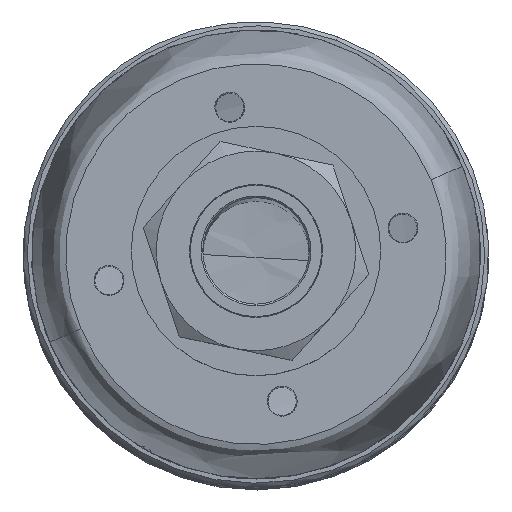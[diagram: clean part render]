
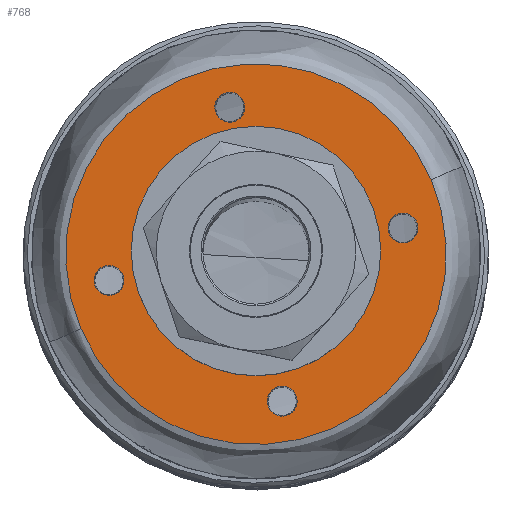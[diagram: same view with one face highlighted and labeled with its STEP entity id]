
A CAD part, top view. The second image highlights one B-rep face of the part: STEP entity #768.
In plain terms, the highlighted planar face has unit normal (0, 0, 1).
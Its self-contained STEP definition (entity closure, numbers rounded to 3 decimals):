
#53 = VERTEX_POINT ( 'NONE', #2762 ) ;
#68 = EDGE_CURVE ( 'NONE', #69, #53, #2835, .T. ) ;
#69 = VERTEX_POINT ( 'NONE', #2831 ) ;
#80 = VERTEX_POINT ( 'NONE', #2874 ) ;
#82 = EDGE_CURVE ( 'NONE', #83, #80, #2873, .T. ) ;
#83 = VERTEX_POINT ( 'NONE', #2868 ) ;
#478 = ORIENTED_EDGE ( 'NONE', *, *, #82, .T. ) ;
#518 = ORIENTED_EDGE ( 'NONE', *, *, #710, .T. ) ;
#695 = EDGE_CURVE ( 'NONE', #696, #707, #4847, .T. ) ;
#696 = VERTEX_POINT ( 'NONE', #4842 ) ;
#698 = EDGE_CURVE ( 'NONE', #80, #83, #4841, .T. ) ;
#704 = EDGE_LOOP ( 'NONE', ( #478, #743 ) ) ;
#707 = VERTEX_POINT ( 'NONE', #4919 ) ;
#710 = EDGE_CURVE ( 'NONE', #750, #741, #4953, .T. ) ;
#722 = EDGE_CURVE ( 'NONE', #2151, #2154, #4988, .T. ) ;
#731 = EDGE_CURVE ( 'NONE', #2136, #2139, #5022, .T. ) ;
#732 = ORIENTED_EDGE ( 'NONE', *, *, #2138, .T. ) ;
#735 = ORIENTED_EDGE ( 'NONE', *, *, #722, .T. ) ;
#737 = ORIENTED_EDGE ( 'NONE', *, *, #2153, .T. ) ;
#739 = EDGE_CURVE ( 'NONE', #53, #69, #5017, .T. ) ;
#740 = EDGE_CURVE ( 'NONE', #741, #750, #5012, .T. ) ;
#741 = VERTEX_POINT ( 'NONE', #5007 ) ;
#742 = EDGE_LOOP ( 'NONE', ( #746, #761 ) ) ;
#743 = ORIENTED_EDGE ( 'NONE', *, *, #698, .T. ) ;
#745 = ORIENTED_EDGE ( 'NONE', *, *, #740, .T. ) ;
#746 = ORIENTED_EDGE ( 'NONE', *, *, #68, .T. ) ;
#750 = VERTEX_POINT ( 'NONE', #4996 ) ;
#751 = ORIENTED_EDGE ( 'NONE', *, *, #695, .T. ) ;
#757 = ORIENTED_EDGE ( 'NONE', *, *, #772, .T. ) ;
#758 = EDGE_LOOP ( 'NONE', ( #745, #518 ) ) ;
#761 = ORIENTED_EDGE ( 'NONE', *, *, #739, .T. ) ;
#762 = EDGE_LOOP ( 'NONE', ( #751, #757 ) ) ;
#768 = ADVANCED_FACE ( 'NONE', ( #5067, #5066, #5065, #5064, #5063, #5062 ), #5101, .T. ) ;
#772 = EDGE_CURVE ( 'NONE', #707, #696, #5091, .T. ) ;
#809 = ORIENTED_EDGE ( 'NONE', *, *, #731, .T. ) ;
#811 = EDGE_LOOP ( 'NONE', ( #737, #735 ) ) ;
#812 = EDGE_LOOP ( 'NONE', ( #732, #809 ) ) ;
#2136 = VERTEX_POINT ( 'NONE', #8761 ) ;
#2138 = EDGE_CURVE ( 'NONE', #2139, #2136, #8760, .T. ) ;
#2139 = VERTEX_POINT ( 'NONE', #8755 ) ;
#2151 = VERTEX_POINT ( 'NONE', #8806 ) ;
#2153 = EDGE_CURVE ( 'NONE', #2154, #2151, #8805, .T. ) ;
#2154 = VERTEX_POINT ( 'NONE', #8800 ) ;
#2762 = CARTESIAN_POINT ( 'NONE',  ( 3.784, 11.147, 0. ) ) ;
#2792 = CARTESIAN_POINT ( 'NONE',  ( 24.834, 20.124, 0. ) ) ;
#2831 = CARTESIAN_POINT ( 'NONE',  ( 45.885, 29.1, 0. ) ) ;
#2832 = DIRECTION ( 'NONE',  ( 0.92, 0.392, 0. ) ) ;
#2833 = DIRECTION ( 'NONE',  ( 0., 0., 1. ) ) ;
#2834 = AXIS2_PLACEMENT_3D ( 'NONE', #2792, #2833, #2832 ) ;
#2835 = CIRCLE ( 'NONE', #2834, 22.885 ) ;
#2868 = CARTESIAN_POINT ( 'NONE',  ( 32.408, 23.353, 0. ) ) ;
#2869 = DIRECTION ( 'NONE',  ( 0.92, 0.392, 0. ) ) ;
#2870 = DIRECTION ( 'NONE',  ( 0., 0., -1. ) ) ;
#2871 = CARTESIAN_POINT ( 'NONE',  ( 24.834, 20.124, 0. ) ) ;
#2872 = AXIS2_PLACEMENT_3D ( 'NONE', #2871, #2870, #2869 ) ;
#2873 = CIRCLE ( 'NONE', #2872, 8.234 ) ;
#2874 = CARTESIAN_POINT ( 'NONE',  ( 17.261, 16.894, 0. ) ) ;
#4672 = DIRECTION ( 'NONE',  ( 0., 0., -1. ) ) ;
#4839 = CARTESIAN_POINT ( 'NONE',  ( 24.834, 20.124, 0. ) ) ;
#4840 = AXIS2_PLACEMENT_3D ( 'NONE', #4839, #4672, #4880 ) ;
#4841 = CIRCLE ( 'NONE', #4840, 8.234 ) ;
#4842 = CARTESIAN_POINT ( 'NONE',  ( 8.817, 17.68, 0. ) ) ;
#4843 = DIRECTION ( 'NONE',  ( 0.92, 0.392, 0. ) ) ;
#4844 = DIRECTION ( 'NONE',  ( 0., 0., -1. ) ) ;
#4845 = CARTESIAN_POINT ( 'NONE',  ( 7.161, 16.974, 0. ) ) ;
#4846 = AXIS2_PLACEMENT_3D ( 'NONE', #4845, #4844, #4843 ) ;
#4847 = CIRCLE ( 'NONE', #4846, 1.8 ) ;
#4880 = DIRECTION ( 'NONE',  ( 0.92, 0.392, 0. ) ) ;
#4919 = CARTESIAN_POINT ( 'NONE',  ( 5.506, 16.268, 0. ) ) ;
#4949 = DIRECTION ( 'NONE',  ( -0.392, 0.92, 0. ) ) ;
#4950 = DIRECTION ( 'NONE',  ( 0., 0., -1. ) ) ;
#4951 = CARTESIAN_POINT ( 'NONE',  ( 27.984, 2.451, 0. ) ) ;
#4952 = AXIS2_PLACEMENT_3D ( 'NONE', #4951, #4950, #4949 ) ;
#4953 = CIRCLE ( 'NONE', #4952, 1.8 ) ;
#4984 = DIRECTION ( 'NONE',  ( 0.392, -0.92, 0. ) ) ;
#4985 = DIRECTION ( 'NONE',  ( 0., 0., -1. ) ) ;
#4986 = CARTESIAN_POINT ( 'NONE',  ( 21.684, 37.797, 0. ) ) ;
#4987 = AXIS2_PLACEMENT_3D ( 'NONE', #4986, #4985, #4984 ) ;
#4988 = CIRCLE ( 'NONE', #4987, 1.8 ) ;
#4996 = CARTESIAN_POINT ( 'NONE',  ( 28.69, 0.795, 0. ) ) ;
#5007 = CARTESIAN_POINT ( 'NONE',  ( 27.278, 4.106, 0. ) ) ;
#5008 = DIRECTION ( 'NONE',  ( -0.392, 0.92, 0. ) ) ;
#5009 = DIRECTION ( 'NONE',  ( 0., 0., -1. ) ) ;
#5010 = CARTESIAN_POINT ( 'NONE',  ( 27.984, 2.451, 0. ) ) ;
#5011 = AXIS2_PLACEMENT_3D ( 'NONE', #5010, #5009, #5008 ) ;
#5012 = CIRCLE ( 'NONE', #5011, 1.8 ) ;
#5013 = DIRECTION ( 'NONE',  ( 0.92, 0.392, 0. ) ) ;
#5014 = DIRECTION ( 'NONE',  ( 0., 0., 1. ) ) ;
#5015 = CARTESIAN_POINT ( 'NONE',  ( 24.834, 20.124, 0. ) ) ;
#5016 = AXIS2_PLACEMENT_3D ( 'NONE', #5015, #5014, #5013 ) ;
#5017 = CIRCLE ( 'NONE', #5016, 22.885 ) ;
#5018 = DIRECTION ( 'NONE',  ( -0.92, -0.392, 0. ) ) ;
#5019 = DIRECTION ( 'NONE',  ( 0., 0., -1. ) ) ;
#5020 = CARTESIAN_POINT ( 'NONE',  ( 42.507, 23.273, 0. ) ) ;
#5021 = AXIS2_PLACEMENT_3D ( 'NONE', #5020, #5019, #5018 ) ;
#5022 = CIRCLE ( 'NONE', #5021, 1.8 ) ;
#5062 = FACE_BOUND ( 'NONE', #811, .T. ) ;
#5063 = FACE_BOUND ( 'NONE', #812, .T. ) ;
#5064 = FACE_BOUND ( 'NONE', #758, .T. ) ;
#5065 = FACE_BOUND ( 'NONE', #762, .T. ) ;
#5066 = FACE_OUTER_BOUND ( 'NONE', #742, .T. ) ;
#5067 = FACE_BOUND ( 'NONE', #704, .T. ) ;
#5087 = DIRECTION ( 'NONE',  ( 0.92, 0.392, 0. ) ) ;
#5088 = DIRECTION ( 'NONE',  ( 0., 0., -1. ) ) ;
#5089 = CARTESIAN_POINT ( 'NONE',  ( 7.161, 16.974, 0. ) ) ;
#5090 = AXIS2_PLACEMENT_3D ( 'NONE', #5089, #5088, #5087 ) ;
#5091 = CIRCLE ( 'NONE', #5090, 1.8 ) ;
#5097 = DIRECTION ( 'NONE',  ( -0.586, -0.81, 0. ) ) ;
#5098 = DIRECTION ( 'NONE',  ( 0., 0., 1. ) ) ;
#5099 = CARTESIAN_POINT ( 'NONE',  ( 24.834, 20.124, 0. ) ) ;
#5100 = AXIS2_PLACEMENT_3D ( 'NONE', #5099, #5098, #5097 ) ;
#5101 = PLANE ( 'NONE',  #5100 ) ;
#8755 = CARTESIAN_POINT ( 'NONE',  ( 40.852, 22.567, 0. ) ) ;
#8756 = DIRECTION ( 'NONE',  ( -0.92, -0.392, 0. ) ) ;
#8757 = DIRECTION ( 'NONE',  ( 0., 0., -1. ) ) ;
#8758 = CARTESIAN_POINT ( 'NONE',  ( 42.507, 23.273, 0. ) ) ;
#8759 = AXIS2_PLACEMENT_3D ( 'NONE', #8758, #8757, #8756 ) ;
#8760 = CIRCLE ( 'NONE', #8759, 1.8 ) ;
#8761 = CARTESIAN_POINT ( 'NONE',  ( 44.163, 23.98, 0. ) ) ;
#8800 = CARTESIAN_POINT ( 'NONE',  ( 22.391, 36.141, 0. ) ) ;
#8801 = DIRECTION ( 'NONE',  ( 0.392, -0.92, 0. ) ) ;
#8802 = DIRECTION ( 'NONE',  ( 0., 0., -1. ) ) ;
#8803 = CARTESIAN_POINT ( 'NONE',  ( 21.684, 37.797, 0. ) ) ;
#8804 = AXIS2_PLACEMENT_3D ( 'NONE', #8803, #8802, #8801 ) ;
#8805 = CIRCLE ( 'NONE', #8804, 1.8 ) ;
#8806 = CARTESIAN_POINT ( 'NONE',  ( 20.978, 39.452, 0. ) ) ;
